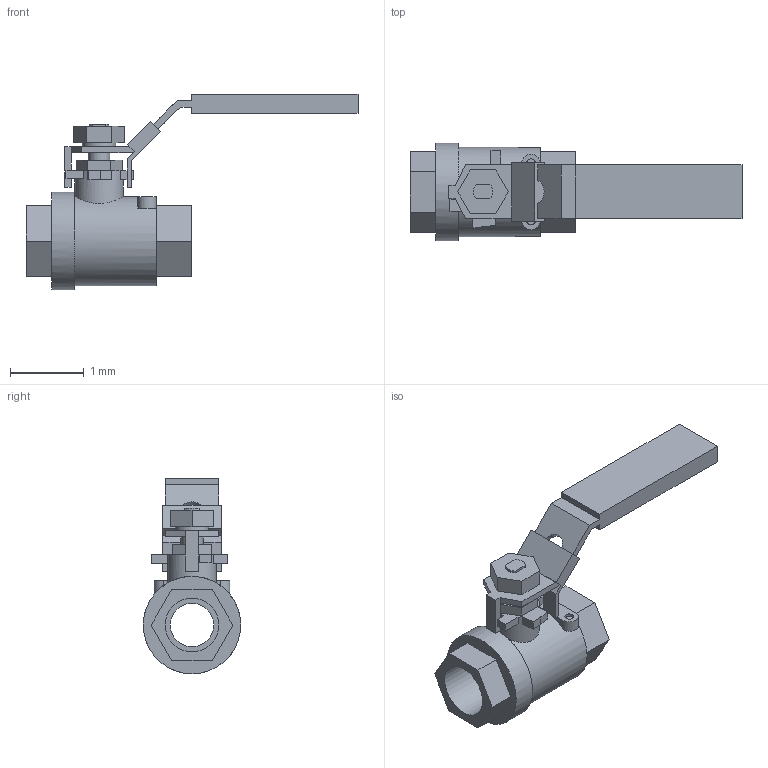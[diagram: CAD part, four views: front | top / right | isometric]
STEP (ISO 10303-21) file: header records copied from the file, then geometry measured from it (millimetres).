
FILE_DESCRIPTION(('Open CASCADE Model'),'2;1');
FILE_NAME('Open CASCADE Shape Model','2022-03-22T12:09:59',('Author'),( 'Open CASCADE'),'Open CASCADE STEP processor 7.3','Open CASCADE 7.3' ,'Unknown');
FILE_SCHEMA(('AUTOMOTIVE_DESIGN { 1 0 10303 214 1 1 1 1 }'));
Length unit declared in the file: millimetre
Products named in the file (1): Open CASCADE STEP translator 7.3 1
Bounding box: 4.5 x 1.32 x 2.65 mm (x, y, z)
Volume: 2.5 mm3; surface area: 26.7 mm2
Topology: 1 solids, 1 shells, 122 faces, 322 edges, 210 vertices
Faces by surface type: plane 107, cylinder 15
Full cylindrical faces by diameter (mm): 0.12 x2, 0.295 x1, 0.45 x1, 0.59 x1, 0.66 x1, 0.728 x2, 1.207 x1, 1.32 x1
Entity records: 8344 total; most frequent: CARTESIAN_POINT 1835, DIRECTION 1204, LINE 848, VECTOR 848, ORIENTED_EDGE 644, PCURVE 644, DEFINITIONAL_REPRESENTATION 644, EDGE_CURVE 322
